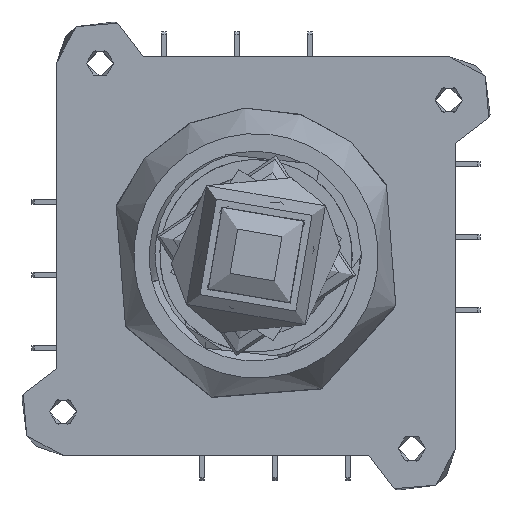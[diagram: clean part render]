
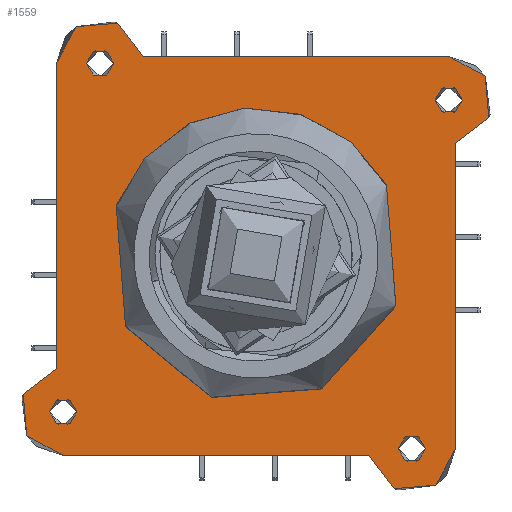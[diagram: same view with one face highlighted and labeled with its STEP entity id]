
A CAD part, top view. The second image highlights one B-rep face of the part: STEP entity #1559.
In plain terms, the highlighted planar face has unit normal (0, 0, 1).
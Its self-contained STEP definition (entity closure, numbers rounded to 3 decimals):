
#1559 = ADVANCED_FACE( '', ( #3586, #3587, #3588, #3589, #3590, #3591 ), #3592, .F. );
#3586 = FACE_BOUND( '', #8062, .T. );
#3587 = FACE_BOUND( '', #8063, .T. );
#3588 = FACE_OUTER_BOUND( '', #8064, .T. );
#3589 = FACE_BOUND( '', #8065, .T. );
#3590 = FACE_BOUND( '', #8066, .T. );
#3591 = FACE_BOUND( '', #8067, .T. );
#3592 = PLANE( '', #8068 );
#8062 = EDGE_LOOP( '', ( #18935 ) );
#8063 = EDGE_LOOP( '', ( #18936 ) );
#8064 = EDGE_LOOP( '', ( #18937, #18938, #18939, #18940, #18941, #18942, #18943, #18944 ) );
#8065 = EDGE_LOOP( '', ( #18945, #18946, #18947, #18948, #18949 ) );
#8066 = EDGE_LOOP( '', ( #18950 ) );
#8067 = EDGE_LOOP( '', ( #18951 ) );
#8068 = AXIS2_PLACEMENT_3D( '', #18952, #18953, #18954 );
#18935 = ORIENTED_EDGE( '', *, *, #25838, .T. );
#18936 = ORIENTED_EDGE( '', *, *, #25839, .T. );
#18937 = ORIENTED_EDGE( '', *, *, #25840, .F. );
#18938 = ORIENTED_EDGE( '', *, *, #25841, .F. );
#18939 = ORIENTED_EDGE( '', *, *, #25842, .F. );
#18940 = ORIENTED_EDGE( '', *, *, #25843, .F. );
#18941 = ORIENTED_EDGE( '', *, *, #25844, .F. );
#18942 = ORIENTED_EDGE( '', *, *, #25845, .F. );
#18943 = ORIENTED_EDGE( '', *, *, #25846, .F. );
#18944 = ORIENTED_EDGE( '', *, *, #25847, .F. );
#18945 = ORIENTED_EDGE( '', *, *, #25848, .F. );
#18946 = ORIENTED_EDGE( '', *, *, #25172, .F. );
#18947 = ORIENTED_EDGE( '', *, *, #25849, .F. );
#18948 = ORIENTED_EDGE( '', *, *, #25436, .F. );
#18949 = ORIENTED_EDGE( '', *, *, #25850, .F. );
#18950 = ORIENTED_EDGE( '', *, *, #25851, .T. );
#18951 = ORIENTED_EDGE( '', *, *, #25852, .T. );
#18952 = CARTESIAN_POINT( '', ( -16.01, 19.79, 1.9 ) );
#18953 = DIRECTION( '', ( 0., 0., -1. ) );
#18954 = DIRECTION( '', ( -1., 0., 0. ) );
#25172 = EDGE_CURVE( '', #28067, #28069, #28070, .T. );
#25436 = EDGE_CURVE( '', #28544, #28546, #28547, .T. );
#25838 = EDGE_CURVE( '', #29227, #29227, #29228, .T. );
#25839 = EDGE_CURVE( '', #29229, #29229, #29230, .T. );
#25840 = EDGE_CURVE( '', #29231, #29232, #29233, .T. );
#25841 = EDGE_CURVE( '', #29234, #29231, #29235, .T. );
#25842 = EDGE_CURVE( '', #29236, #29234, #29237, .T. );
#25843 = EDGE_CURVE( '', #29238, #29236, #29239, .T. );
#25844 = EDGE_CURVE( '', #29240, #29238, #29241, .T. );
#25845 = EDGE_CURVE( '', #29242, #29240, #29243, .T. );
#25846 = EDGE_CURVE( '', #29244, #29242, #29245, .T. );
#25847 = EDGE_CURVE( '', #29232, #29244, #29246, .T. );
#25848 = EDGE_CURVE( '', #28069, #29247, #29248, .T. );
#25849 = EDGE_CURVE( '', #28546, #28067, #29249, .T. );
#25850 = EDGE_CURVE( '', #29247, #28544, #29250, .T. );
#25851 = EDGE_CURVE( '', #29251, #29251, #29252, .T. );
#25852 = EDGE_CURVE( '', #29253, #29253, #29254, .T. );
#28067 = VERTEX_POINT( '', #32360 );
#28069 = VERTEX_POINT( '', #32363 );
#28070 = LINE( '', #32364, #32365 );
#28544 = VERTEX_POINT( '', #33475 );
#28546 = VERTEX_POINT( '', #33478 );
#28547 = LINE( '', #33479, #33480 );
#29227 = VERTEX_POINT( '', #34757 );
#29228 = CIRCLE( '', #34758, 1.4 );
#29229 = VERTEX_POINT( '', #34759 );
#29230 = CIRCLE( '', #34760, 1.4 );
#29231 = VERTEX_POINT( '', #34761 );
#29232 = VERTEX_POINT( '', #34762 );
#29233 = CIRCLE( '', #34763, 4.49 );
#29234 = VERTEX_POINT( '', #34764 );
#29235 = LINE( '', #34765, #34766 );
#29236 = VERTEX_POINT( '', #34767 );
#29237 = CIRCLE( '', #34768, 4.49 );
#29238 = VERTEX_POINT( '', #34769 );
#29239 = LINE( '', #34770, #34771 );
#29240 = VERTEX_POINT( '', #34772 );
#29241 = CIRCLE( '', #34773, 4.49 );
#29242 = VERTEX_POINT( '', #34774 );
#29243 = LINE( '', #34775, #34776 );
#29244 = VERTEX_POINT( '', #34777 );
#29245 = CIRCLE( '', #34778, 4.49 );
#29246 = LINE( '', #34779, #34780 );
#29247 = VERTEX_POINT( '', #34781 );
#29248 = CIRCLE( '', #34782, 10.85 );
#29249 = CIRCLE( '', #34783, 10.85 );
#29250 = CIRCLE( '', #34784, 10.85 );
#29251 = VERTEX_POINT( '', #34785 );
#29252 = CIRCLE( '', #34786, 1.4 );
#29253 = VERTEX_POINT( '', #34787 );
#29254 = CIRCLE( '', #34788, 1.4 );
#32360 = CARTESIAN_POINT( '', ( 5.232, 9.505, 1.9 ) );
#32363 = CARTESIAN_POINT( '', ( -3.141, 10.385, 1.9 ) );
#32364 = CARTESIAN_POINT( '', ( 5.232, 9.505, 1.9 ) );
#32365 = VECTOR( '', #39738, 1000. );
#33475 = CARTESIAN_POINT( '', ( -5.232, -9.505, 1.9 ) );
#33478 = CARTESIAN_POINT( '', ( 3.141, -10.385, 1.9 ) );
#33479 = CARTESIAN_POINT( '', ( -5.232, -9.505, 1.9 ) );
#33480 = VECTOR( '', #39960, 1000. );
#34757 = CARTESIAN_POINT( '', ( 18.39, 16.01, 1.9 ) );
#34758 = AXIS2_PLACEMENT_3D( '', #40368, #40369, #40370 );
#34759 = CARTESIAN_POINT( '', ( 14.61, -19.79, 1.9 ) );
#34760 = AXIS2_PLACEMENT_3D( '', #40371, #40372, #40373 );
#34761 = CARTESIAN_POINT( '', ( -20.5, 19.79, 1.9 ) );
#34762 = CARTESIAN_POINT( '', ( -11.576, 20.5, 1.9 ) );
#34763 = AXIS2_PLACEMENT_3D( '', #40374, #40375, #40376 );
#34764 = CARTESIAN_POINT( '', ( -20.5, -11.576, 1.9 ) );
#34765 = CARTESIAN_POINT( '', ( -20.5, -11.576, 1.9 ) );
#34766 = VECTOR( '', #40377, 1000. );
#34767 = CARTESIAN_POINT( '', ( -19.79, -20.5, 1.9 ) );
#34768 = AXIS2_PLACEMENT_3D( '', #40378, #40379, #40380 );
#34769 = CARTESIAN_POINT( '', ( 11.576, -20.5, 1.9 ) );
#34770 = CARTESIAN_POINT( '', ( 11.576, -20.5, 1.9 ) );
#34771 = VECTOR( '', #40381, 1000. );
#34772 = CARTESIAN_POINT( '', ( 20.5, -19.79, 1.9 ) );
#34773 = AXIS2_PLACEMENT_3D( '', #40382, #40383, #40384 );
#34774 = CARTESIAN_POINT( '', ( 20.5, 11.576, 1.9 ) );
#34775 = CARTESIAN_POINT( '', ( 20.5, 11.576, 1.9 ) );
#34776 = VECTOR( '', #40385, 1000. );
#34777 = CARTESIAN_POINT( '', ( 19.79, 20.5, 1.9 ) );
#34778 = AXIS2_PLACEMENT_3D( '', #40386, #40387, #40388 );
#34779 = CARTESIAN_POINT( '', ( -11.576, 20.5, 1.9 ) );
#34780 = VECTOR( '', #40389, 1000. );
#34781 = CARTESIAN_POINT( '', ( -10.85, 0., 1.9 ) );
#34782 = AXIS2_PLACEMENT_3D( '', #40390, #40391, #40392 );
#34783 = AXIS2_PLACEMENT_3D( '', #40393, #40394, #40395 );
#34784 = AXIS2_PLACEMENT_3D( '', #40396, #40397, #40398 );
#34785 = CARTESIAN_POINT( '', ( -21.19, -16.01, 1.9 ) );
#34786 = AXIS2_PLACEMENT_3D( '', #40399, #40400, #40401 );
#34787 = CARTESIAN_POINT( '', ( -17.41, 19.79, 1.9 ) );
#34788 = AXIS2_PLACEMENT_3D( '', #40402, #40403, #40404 );
#39738 = DIRECTION( '', ( -0.995, 0.105, 0. ) );
#39960 = DIRECTION( '', ( 0.995, -0.105, 0. ) );
#40368 = CARTESIAN_POINT( '', ( 19.79, 16.01, 1.9 ) );
#40369 = DIRECTION( '', ( 0., 0., -1. ) );
#40370 = DIRECTION( '', ( -1., 0., 0. ) );
#40371 = CARTESIAN_POINT( '', ( 16.01, -19.79, 1.9 ) );
#40372 = DIRECTION( '', ( 0., 0., -1. ) );
#40373 = DIRECTION( '', ( -1., 0., 0. ) );
#40374 = CARTESIAN_POINT( '', ( -16.01, 19.79, 1.9 ) );
#40375 = DIRECTION( '', ( 0., 0., -1. ) );
#40376 = DIRECTION( '', ( 1., 0., 0. ) );
#40377 = DIRECTION( '', ( 0., 1., 0. ) );
#40378 = CARTESIAN_POINT( '', ( -19.79, -16.01, 1.9 ) );
#40379 = DIRECTION( '', ( 0., 0., -1. ) );
#40380 = DIRECTION( '', ( 1., 0., 0. ) );
#40381 = DIRECTION( '', ( -1., 0., 0. ) );
#40382 = CARTESIAN_POINT( '', ( 16.01, -19.79, 1.9 ) );
#40383 = DIRECTION( '', ( 0., 0., -1. ) );
#40384 = DIRECTION( '', ( 1., 0., 0. ) );
#40385 = DIRECTION( '', ( 0., -1., 0. ) );
#40386 = CARTESIAN_POINT( '', ( 19.79, 16.01, 1.9 ) );
#40387 = DIRECTION( '', ( 0., 0., -1. ) );
#40388 = DIRECTION( '', ( -1., 0., 0. ) );
#40389 = DIRECTION( '', ( 1., 0., 0. ) );
#40390 = CARTESIAN_POINT( '', ( 0., 0., 1.9 ) );
#40391 = DIRECTION( '', ( 0., 0., 1. ) );
#40392 = DIRECTION( '', ( 1., 0., 0. ) );
#40393 = CARTESIAN_POINT( '', ( 0., 0., 1.9 ) );
#40394 = DIRECTION( '', ( 0., 0., 1. ) );
#40395 = DIRECTION( '', ( -1., 0., 0. ) );
#40396 = CARTESIAN_POINT( '', ( 0., 0., 1.9 ) );
#40397 = DIRECTION( '', ( 0., 0., 1. ) );
#40398 = DIRECTION( '', ( 1., 0., 0. ) );
#40399 = CARTESIAN_POINT( '', ( -19.79, -16.01, 1.9 ) );
#40400 = DIRECTION( '', ( 0., 0., -1. ) );
#40401 = DIRECTION( '', ( -1., 0., 0. ) );
#40402 = CARTESIAN_POINT( '', ( -16.01, 19.79, 1.9 ) );
#40403 = DIRECTION( '', ( 0., 0., -1. ) );
#40404 = DIRECTION( '', ( -1., 0., 0. ) );
